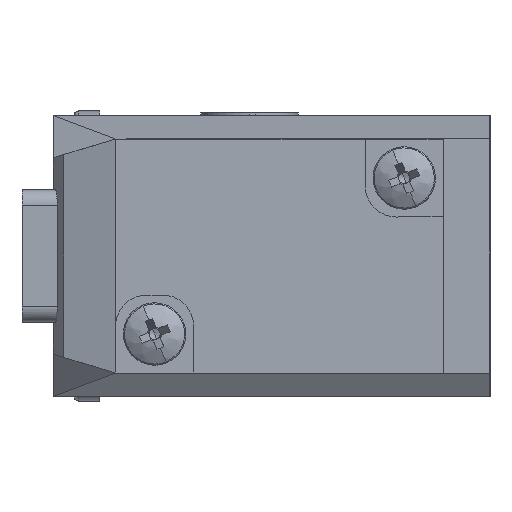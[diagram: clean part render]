
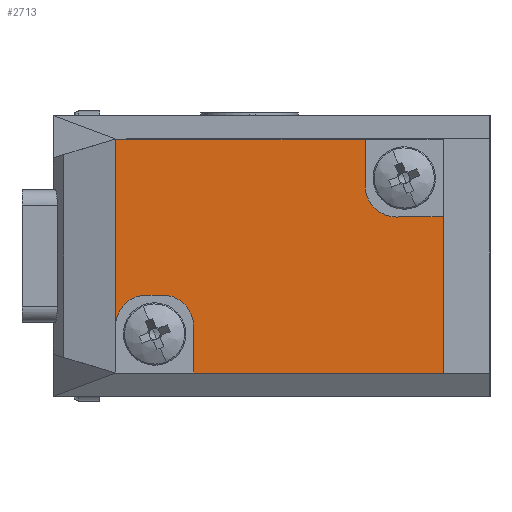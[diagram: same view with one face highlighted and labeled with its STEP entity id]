
A CAD part, left-side view. The second image highlights one B-rep face of the part: STEP entity #2713.
In plain terms, the highlighted planar face has unit normal (-1, 0, 0) as drawn and (1, 0, 0) by its records, which use the part's own axes.
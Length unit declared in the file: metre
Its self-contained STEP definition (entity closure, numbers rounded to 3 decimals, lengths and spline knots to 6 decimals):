
#95 = ORIENTED_EDGE ( 'NONE', *, *, #7466, .F. ) ;
#183 = CARTESIAN_POINT ( 'NONE',  ( 0.01825, -0.0075, -0.006 ) ) ;
#250 = CARTESIAN_POINT ( 'NONE',  ( 0.01825, -0.0125, 0. ) ) ;
#368 = DIRECTION ( 'NONE',  ( 0., 0., -1. ) ) ;
#477 = PLANE ( 'NONE',  #8917 ) ;
#570 = CARTESIAN_POINT ( 'NONE',  ( 0.01825, -0.0125, -0.0075 ) ) ;
#573 = AXIS2_PLACEMENT_3D ( 'NONE', #5352, #5252, #5284 ) ;
#586 = DIRECTION ( 'NONE',  ( -1., 0., 0. ) ) ;
#601 = DIRECTION ( 'NONE',  ( 0., 0., 1. ) ) ;
#684 = VERTEX_POINT ( 'NONE', #5258 ) ;
#712 = DIRECTION ( 'NONE',  ( 0., -1., 0. ) ) ;
#885 = VERTEX_POINT ( 'NONE', #7519 ) ;
#985 = CARTESIAN_POINT ( 'NONE',  ( 0.01825, 0.0085, -0.0075 ) ) ;
#1009 = DIRECTION ( 'NONE',  ( 0., 0., -1. ) ) ;
#1011 = AXIS2_PLACEMENT_3D ( 'NONE', #6735, #1261, #5915 ) ;
#1064 = VERTEX_POINT ( 'NONE', #9747 ) ;
#1110 = ORIENTED_EDGE ( 'NONE', *, *, #2360, .T. ) ;
#1128 = DIRECTION ( 'NONE',  ( 0., 0., -1. ) ) ;
#1261 = DIRECTION ( 'NONE',  ( 1., 0., 0. ) ) ;
#1320 = VERTEX_POINT ( 'NONE', #8564 ) ;
#1626 = EDGE_LOOP ( 'NONE', ( #5854, #5045, #1110, #95, #6080, #6983, #5120, #5086, #5833, #6364, #6353 ) ) ;
#2300 = LINE ( 'NONE', #7682, #4412 ) ;
#2360 = EDGE_CURVE ( 'NONE', #7894, #885, #8107, .T. ) ;
#2399 = CARTESIAN_POINT ( 'NONE',  ( 0.01825, 0.0055, 0.0025 ) ) ;
#2440 = VECTOR ( 'NONE', #6432, 1. ) ;
#2541 = EDGE_CURVE ( 'NONE', #1064, #3528, #4790, .T. ) ;
#2601 = CIRCLE ( 'NONE', #4865, 0.002 ) ;
#2623 = VECTOR ( 'NONE', #712, 1. ) ;
#2713 = ADVANCED_FACE ( 'NONE', ( #9491 ), #477, .F. ) ;
#3274 = CARTESIAN_POINT ( 'NONE',  ( 0.01825, -0.0075, -0.0045 ) ) ;
#3291 = VECTOR ( 'NONE', #8962, 1. ) ;
#3482 = EDGE_CURVE ( 'NONE', #7234, #4589, #2300, .T. ) ;
#3528 = VERTEX_POINT ( 'NONE', #7994 ) ;
#3616 = EDGE_CURVE ( 'NONE', #5633, #1320, #9495, .T. ) ;
#3686 = LINE ( 'NONE', #5784, #7636 ) ;
#3915 = VECTOR ( 'NONE', #1009, 1. ) ;
#4412 = VECTOR ( 'NONE', #7648, 1. ) ;
#4462 = CARTESIAN_POINT ( 'NONE',  ( 0.01825, -0.0095, -0.0025 ) ) ;
#4589 = VERTEX_POINT ( 'NONE', #4462 ) ;
#4654 = EDGE_CURVE ( 'NONE', #684, #5633, #6237, .T. ) ;
#4741 = DIRECTION ( 'NONE',  ( 0., 0., -1. ) ) ;
#4790 = LINE ( 'NONE', #5762, #2440 ) ;
#4840 = VERTEX_POINT ( 'NONE', #985 ) ;
#4865 = AXIS2_PLACEMENT_3D ( 'NONE', #8160, #8219, #8427 ) ;
#4974 = CIRCLE ( 'NONE', #573, 0.002 ) ;
#4997 = CARTESIAN_POINT ( 'NONE',  ( 0.01825, -0.0125, -0.0025 ) ) ;
#5045 = ORIENTED_EDGE ( 'NONE', *, *, #8024, .F. ) ;
#5086 = ORIENTED_EDGE ( 'NONE', *, *, #4654, .F. ) ;
#5120 = ORIENTED_EDGE ( 'NONE', *, *, #3616, .F. ) ;
#5252 = DIRECTION ( 'NONE',  ( 1., 0., 0. ) ) ;
#5258 = CARTESIAN_POINT ( 'NONE',  ( 0.01825, 0.0035, 0.0045 ) ) ;
#5284 = DIRECTION ( 'NONE',  ( 0., 0., 1. ) ) ;
#5352 = CARTESIAN_POINT ( 'NONE',  ( 0.01825, -0.0095, -0.0045 ) ) ;
#5633 = VERTEX_POINT ( 'NONE', #2399 ) ;
#5693 = VECTOR ( 'NONE', #4741, 1. ) ;
#5706 = VECTOR ( 'NONE', #368, 1. ) ;
#5762 = CARTESIAN_POINT ( 'NONE',  ( 0.01825, -0.002, 0.0075 ) ) ;
#5784 = CARTESIAN_POINT ( 'NONE',  ( 0.01825, 0.0035, 0. ) ) ;
#5833 = ORIENTED_EDGE ( 'NONE', *, *, #9694, .F. ) ;
#5854 = ORIENTED_EDGE ( 'NONE', *, *, #3482, .T. ) ;
#5915 = DIRECTION ( 'NONE',  ( 0., 0., 1. ) ) ;
#6080 = ORIENTED_EDGE ( 'NONE', *, *, #9006, .F. ) ;
#6173 = VERTEX_POINT ( 'NONE', #7900 ) ;
#6194 = LINE ( 'NONE', #250, #5706 ) ;
#6237 = CIRCLE ( 'NONE', #1011, 0.002 ) ;
#6343 = CARTESIAN_POINT ( 'NONE',  ( 0.01825, 0.0085, 0. ) ) ;
#6353 = ORIENTED_EDGE ( 'NONE', *, *, #8449, .T. ) ;
#6364 = ORIENTED_EDGE ( 'NONE', *, *, #2541, .T. ) ;
#6432 = DIRECTION ( 'NONE',  ( 0., -1., 0. ) ) ;
#6735 = CARTESIAN_POINT ( 'NONE',  ( 0.01825, 0.0055, 0.0045 ) ) ;
#6851 = LINE ( 'NONE', #9934, #2623 ) ;
#6983 = ORIENTED_EDGE ( 'NONE', *, *, #8632, .F. ) ;
#7234 = VERTEX_POINT ( 'NONE', #4997 ) ;
#7466 = EDGE_CURVE ( 'NONE', #4840, #885, #6851, .T. ) ;
#7519 = CARTESIAN_POINT ( 'NONE',  ( 0.01825, -0.0075, -0.0075 ) ) ;
#7636 = VECTOR ( 'NONE', #1128, 1. ) ;
#7648 = DIRECTION ( 'NONE',  ( 0., 1., 0. ) ) ;
#7682 = CARTESIAN_POINT ( 'NONE',  ( 0.01825, -0.011, -0.0025 ) ) ;
#7894 = VERTEX_POINT ( 'NONE', #3274 ) ;
#7900 = CARTESIAN_POINT ( 'NONE',  ( 0.01825, 0.0085, 0.0045 ) ) ;
#7994 = CARTESIAN_POINT ( 'NONE',  ( 0.01825, -0.0125, 0.0075 ) ) ;
#8024 = EDGE_CURVE ( 'NONE', #7894, #4589, #4974, .T. ) ;
#8107 = LINE ( 'NONE', #183, #3915 ) ;
#8160 = CARTESIAN_POINT ( 'NONE',  ( 0.01825, 0.0065, 0.0045 ) ) ;
#8219 = DIRECTION ( 'NONE',  ( 1., 0., 0. ) ) ;
#8427 = DIRECTION ( 'NONE',  ( 0., 0., 1. ) ) ;
#8449 = EDGE_CURVE ( 'NONE', #3528, #7234, #6194, .T. ) ;
#8564 = CARTESIAN_POINT ( 'NONE',  ( 0.01825, 0.0065, 0.0025 ) ) ;
#8632 = EDGE_CURVE ( 'NONE', #1320, #6173, #2601, .T. ) ;
#8917 = AXIS2_PLACEMENT_3D ( 'NONE', #570, #586, #601 ) ;
#8952 = CARTESIAN_POINT ( 'NONE',  ( 0.01825, -0.002, 0.0025 ) ) ;
#8962 = DIRECTION ( 'NONE',  ( 0., 1., 0. ) ) ;
#9006 = EDGE_CURVE ( 'NONE', #6173, #4840, #9526, .T. ) ;
#9491 = FACE_OUTER_BOUND ( 'NONE', #1626, .T. ) ;
#9495 = LINE ( 'NONE', #8952, #3291 ) ;
#9526 = LINE ( 'NONE', #6343, #5693 ) ;
#9694 = EDGE_CURVE ( 'NONE', #1064, #684, #3686, .T. ) ;
#9747 = CARTESIAN_POINT ( 'NONE',  ( 0.01825, 0.0035, 0.0075 ) ) ;
#9934 = CARTESIAN_POINT ( 'NONE',  ( 0.01825, -0.002, -0.0075 ) ) ;
